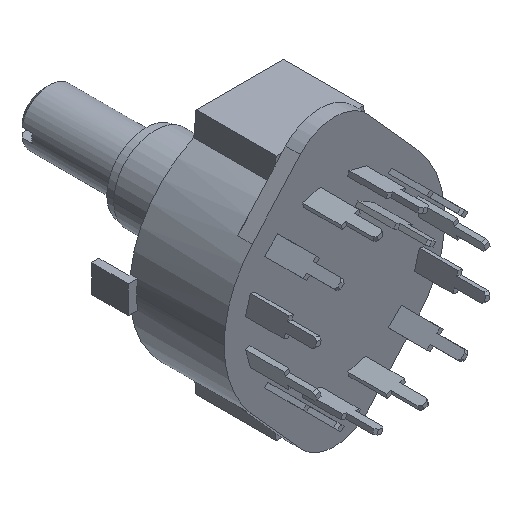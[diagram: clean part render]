
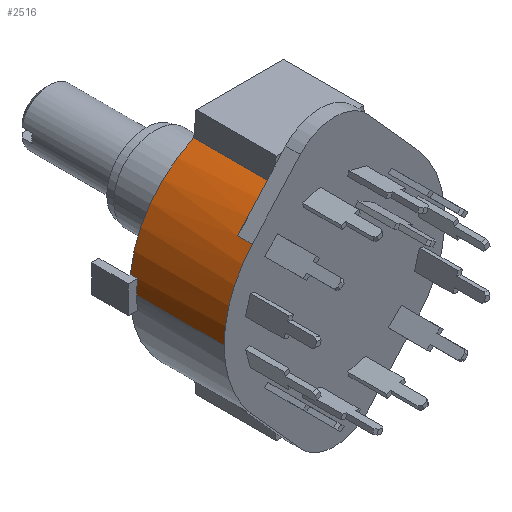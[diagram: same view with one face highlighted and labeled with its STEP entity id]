
A CAD part, isometric view. The second image highlights one B-rep face of the part: STEP entity #2516.
In plain terms, the highlighted cylindrical face has radius 12 mm (diameter 24 mm), a partial arc.
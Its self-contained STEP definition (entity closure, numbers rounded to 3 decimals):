
#42 = CARTESIAN_POINT ( 'NONE',  ( -5., 1.6, 10.909 ) ) ;
#43 = LINE ( 'NONE', #42, #78 ) ;
#78 = VECTOR ( 'NONE', #93, 1000. ) ;
#93 = DIRECTION ( 'NONE',  ( 0., 1., 0. ) ) ;
#104 = CARTESIAN_POINT ( 'NONE',  ( -5., 10.3, 10.909 ) ) ;
#107 = DIRECTION ( 'NONE',  ( -1., 0., 0. ) ) ;
#108 = DIRECTION ( 'NONE',  ( 0., -1., 0. ) ) ;
#109 = CARTESIAN_POINT ( 'NONE',  ( 0., 10.3, 0. ) ) ;
#110 = AXIS2_PLACEMENT_3D ( 'NONE', #109, #108, #107 ) ;
#172 = CIRCLE ( 'NONE', #110, 12. ) ;
#2095 = CARTESIAN_POINT ( 'NONE',  ( -5., 1.6, 10.909 ) ) ;
#2163 = DIRECTION ( 'NONE',  ( -1., 0., 0. ) ) ;
#2164 = DIRECTION ( 'NONE',  ( 0., 1., 0. ) ) ;
#2165 = CARTESIAN_POINT ( 'NONE',  ( 0., 1.6, 0. ) ) ;
#2166 = AXIS2_PLACEMENT_3D ( 'NONE', #2165, #2164, #2163 ) ;
#2167 = CIRCLE ( 'NONE', #2166, 12. ) ;
#2458 = EDGE_CURVE ( 'NONE', #2501, #6034, #3628, .T. ) ;
#2487 = EDGE_CURVE ( 'NONE', #2488, #2878, #3639, .T. ) ;
#2488 = VERTEX_POINT ( 'NONE', #3691 ) ;
#2489 = ORIENTED_EDGE ( 'NONE', *, *, #2545, .F. ) ;
#2501 = VERTEX_POINT ( 'NONE', #3662 ) ;
#2504 = EDGE_LOOP ( 'NONE', ( #2517, #2518, #2519, #2520, #2489, #2560, #2561, #2562 ) ) ;
#2516 = ADVANCED_FACE ( 'NONE', ( #3760 ), #3720, .T. ) ;
#2517 = ORIENTED_EDGE ( 'NONE', *, *, #6148, .T. ) ;
#2518 = ORIENTED_EDGE ( 'NONE', *, *, #3109, .T. ) ;
#2519 = ORIENTED_EDGE ( 'NONE', *, *, #2877, .F. ) ;
#2520 = ORIENTED_EDGE ( 'NONE', *, *, #2487, .F. ) ;
#2545 = EDGE_CURVE ( 'NONE', #2501, #2488, #3811, .T. ) ;
#2560 = ORIENTED_EDGE ( 'NONE', *, *, #2458, .T. ) ;
#2561 = ORIENTED_EDGE ( 'NONE', *, *, #6082, .T. ) ;
#2562 = ORIENTED_EDGE ( 'NONE', *, *, #6121, .T. ) ;
#2869 = VERTEX_POINT ( 'NONE', #4370 ) ;
#2877 = EDGE_CURVE ( 'NONE', #2878, #2869, #4460, .T. ) ;
#2878 = VERTEX_POINT ( 'NONE', #4436 ) ;
#3109 = EDGE_CURVE ( 'NONE', #3110, #2869, #7881, .T. ) ;
#3110 = VERTEX_POINT ( 'NONE', #7980 ) ;
#3628 = LINE ( 'NONE', #3696, #3695 ) ;
#3636 = DIRECTION ( 'NONE',  ( 0., 1., 0. ) ) ;
#3637 = VECTOR ( 'NONE', #3636, 1000. ) ;
#3638 = CARTESIAN_POINT ( 'NONE',  ( -12., 1.6, 0. ) ) ;
#3639 = LINE ( 'NONE', #3638, #3637 ) ;
#3662 = CARTESIAN_POINT ( 'NONE',  ( -8.944, 0., 8. ) ) ;
#3691 = CARTESIAN_POINT ( 'NONE',  ( -12., 0., 0. ) ) ;
#3694 = DIRECTION ( 'NONE',  ( 0., 1., 0. ) ) ;
#3695 = VECTOR ( 'NONE', #3694, 1000. ) ;
#3696 = CARTESIAN_POINT ( 'NONE',  ( -8.944, 1.6, 8. ) ) ;
#3708 = DIRECTION ( 'NONE',  ( -1., 0., 0. ) ) ;
#3709 = DIRECTION ( 'NONE',  ( 0., -1., 0. ) ) ;
#3710 = CARTESIAN_POINT ( 'NONE',  ( 0., 1.6, 0. ) ) ;
#3711 = AXIS2_PLACEMENT_3D ( 'NONE', #3710, #3709, #3708 ) ;
#3720 = CYLINDRICAL_SURFACE ( 'NONE', #3711, 12. ) ;
#3760 = FACE_OUTER_BOUND ( 'NONE', #2504, .T. ) ;
#3807 = DIRECTION ( 'NONE',  ( -1., 0., 0. ) ) ;
#3808 = DIRECTION ( 'NONE',  ( 0., -1., 0. ) ) ;
#3809 = CARTESIAN_POINT ( 'NONE',  ( 0., 0., 0. ) ) ;
#3810 = AXIS2_PLACEMENT_3D ( 'NONE', #3809, #3808, #3807 ) ;
#3811 = CIRCLE ( 'NONE', #3810, 12. ) ;
#4370 = CARTESIAN_POINT ( 'NONE',  ( -11.906, 9.5, 1.5 ) ) ;
#4436 = CARTESIAN_POINT ( 'NONE',  ( -12., 9.5, 0. ) ) ;
#4437 = DIRECTION ( 'NONE',  ( -1., 0., 0. ) ) ;
#4457 = DIRECTION ( 'NONE',  ( 0., 1., 0. ) ) ;
#4458 = CARTESIAN_POINT ( 'NONE',  ( 0., 9.5, 0. ) ) ;
#4459 = AXIS2_PLACEMENT_3D ( 'NONE', #4458, #4457, #4437 ) ;
#4460 = CIRCLE ( 'NONE', #4459, 12. ) ;
#4756 = CARTESIAN_POINT ( 'NONE',  ( -8.944, 1.6, 8. ) ) ;
#6034 = VERTEX_POINT ( 'NONE', #4756 ) ;
#6080 = VERTEX_POINT ( 'NONE', #2095 ) ;
#6082 = EDGE_CURVE ( 'NONE', #6034, #6080, #2167, .T. ) ;
#6121 = EDGE_CURVE ( 'NONE', #6080, #6143, #43, .T. ) ;
#6143 = VERTEX_POINT ( 'NONE', #104 ) ;
#6148 = EDGE_CURVE ( 'NONE', #6143, #3110, #172, .T. ) ;
#7881 = LINE ( 'NONE', #7983, #7982 ) ;
#7980 = CARTESIAN_POINT ( 'NONE',  ( -11.906, 10.3, 1.5 ) ) ;
#7981 = DIRECTION ( 'NONE',  ( 0., -1., 0. ) ) ;
#7982 = VECTOR ( 'NONE', #7981, 1000. ) ;
#7983 = CARTESIAN_POINT ( 'NONE',  ( -11.906, 10.3, 1.5 ) ) ;
